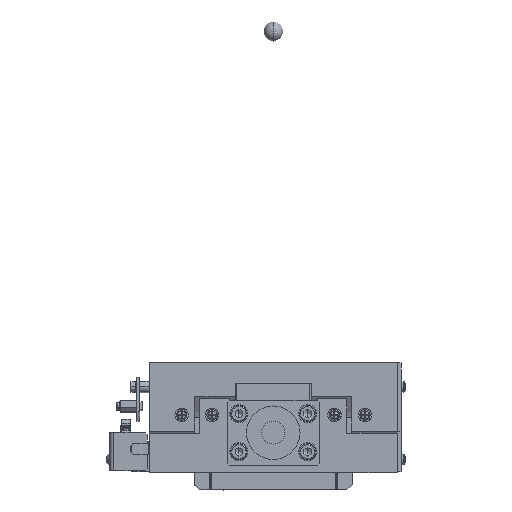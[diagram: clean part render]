
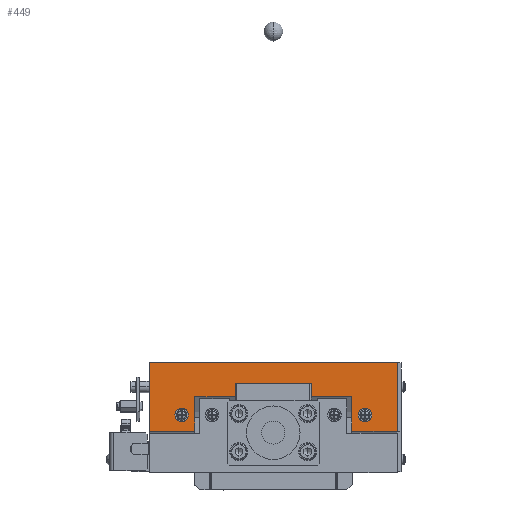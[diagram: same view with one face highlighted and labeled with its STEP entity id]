
A CAD part, left-side view. The second image highlights one B-rep face of the part: STEP entity #449.
In plain terms, the highlighted planar face has unit normal (-1, 0, 0).
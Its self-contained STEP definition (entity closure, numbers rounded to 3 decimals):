
#449=ADVANCED_FACE('',(#6894,#6895,#6896),#6893,.T.);
#6893=PLANE('',#42732);
#6894=FACE_OUTER_BOUND('',#42733,.T.);
#6895=FACE_BOUND('',#42734,.T.);
#6896=FACE_BOUND('',#42735,.T.);
#42729=CARTESIAN_POINT('',(-65.,-75.,18.255));
#42730=DIRECTION('',(-1.,0.,0.));
#42731=DIRECTION('',(0.,0.,1.));
#42732=AXIS2_PLACEMENT_3D('',#42729,#42730,#42731);
#42733=EDGE_LOOP('',(#67120,#67121,#67122,#67123,#67124,#67125,#67126,#67127,#67128,#67129,#67130,#67131));
#42734=EDGE_LOOP('',(#67132,#67133));
#42735=EDGE_LOOP('',(#67134,#67135));
#67120=ORIENTED_EDGE('',*,*,#83916,.F.);
#67121=ORIENTED_EDGE('',*,*,#84635,.F.);
#67122=ORIENTED_EDGE('',*,*,#84636,.T.);
#67123=ORIENTED_EDGE('',*,*,#83912,.F.);
#67124=ORIENTED_EDGE('',*,*,#83892,.T.);
#67125=ORIENTED_EDGE('',*,*,#83939,.F.);
#67126=ORIENTED_EDGE('',*,*,#83935,.F.);
#67127=ORIENTED_EDGE('',*,*,#84024,.T.);
#67128=ORIENTED_EDGE('',*,*,#84032,.F.);
#67129=ORIENTED_EDGE('',*,*,#83901,.F.);
#67130=ORIENTED_EDGE('',*,*,#84034,.T.);
#67131=ORIENTED_EDGE('',*,*,#83946,.T.);
#67132=ORIENTED_EDGE('',*,*,#84637,.T.);
#67133=ORIENTED_EDGE('',*,*,#84638,.T.);
#67134=ORIENTED_EDGE('',*,*,#84639,.T.);
#67135=ORIENTED_EDGE('',*,*,#84640,.T.);
#83892=EDGE_CURVE('',#94804,#94818,#94825,.T.);
#83901=EDGE_CURVE('',#94887,#94888,#94889,.T.);
#83912=EDGE_CURVE('',#94804,#94922,#94961,.T.);
#83916=EDGE_CURVE('',#94982,#94967,#94989,.T.);
#83935=EDGE_CURVE('',#95114,#95100,#95121,.T.);
#83939=EDGE_CURVE('',#95100,#94818,#95147,.T.);
#83946=EDGE_CURVE('',#95194,#94967,#95195,.T.);
#84024=EDGE_CURVE('',#95114,#95733,#95740,.T.);
#84032=EDGE_CURVE('',#94888,#95733,#95792,.T.);
#84034=EDGE_CURVE('',#94887,#95194,#95804,.T.);
#84635=EDGE_CURVE('',#99784,#94982,#99785,.T.);
#84636=EDGE_CURVE('',#99784,#94922,#99791,.T.);
#84637=EDGE_CURVE('',#99797,#99798,#99799,.T.);
#84638=EDGE_CURVE('',#99798,#99797,#99805,.T.);
#84639=EDGE_CURVE('',#99811,#99812,#99813,.T.);
#84640=EDGE_CURVE('',#99812,#99811,#99819,.T.);
#94804=VERTEX_POINT('',#155460);
#94818=VERTEX_POINT('',#155469);
#94825=LINE('',#155473,#155474);
#94887=VERTEX_POINT('',#155509);
#94888=VERTEX_POINT('',#155510);
#94889=LINE('',#155511,#155512);
#94922=VERTEX_POINT('',#155532);
#94961=LINE('',#155554,#155555);
#94967=VERTEX_POINT('',#155557);
#94982=VERTEX_POINT('',#155566);
#94989=LINE('',#155571,#155572);
#95100=VERTEX_POINT('',#155644);
#95114=VERTEX_POINT('',#155652);
#95121=LINE('',#155657,#155658);
#95147=LINE('',#155671,#155672);
#95194=VERTEX_POINT('',#155700);
#95195=LINE('',#155701,#155702);
#95733=VERTEX_POINT('',#156080);
#95740=LINE('',#156085,#156086);
#95792=LINE('',#156114,#156115);
#95804=LINE('',#156120,#156121);
#99784=VERTEX_POINT('',#158407);
#99785=LINE('',#158408,#158409);
#99791=LINE('',#158411,#158412);
#99797=VERTEX_POINT('',#158414);
#99798=VERTEX_POINT('',#158415);
#99799=CIRCLE('',#158419,3.5);
#99805=CIRCLE('',#158423,3.5);
#99811=VERTEX_POINT('',#158424);
#99812=VERTEX_POINT('',#158425);
#99813=CIRCLE('',#158429,3.5);
#99819=CIRCLE('',#158433,3.5);
#155460=CARTESIAN_POINT('',(-65.,20.,39.744));
#155469=CARTESIAN_POINT('',(-65.,20.,47.));
#155473=CARTESIAN_POINT('',(-65.,20.,39.744));
#155474=VECTOR('',#155475,7.256);
#155475=DIRECTION('',(0.,0.,1.));
#155509=CARTESIAN_POINT('',(-65.,-65.,21.868));
#155510=CARTESIAN_POINT('',(-65.,-41.,21.868));
#155511=CARTESIAN_POINT('',(-65.,-65.,21.868));
#155512=VECTOR('',#155513,24.);
#155513=DIRECTION('',(0.,1.,0.));
#155532=CARTESIAN_POINT('',(-65.,41.,39.744));
#155554=CARTESIAN_POINT('',(-65.,20.,39.744));
#155555=VECTOR('',#155556,21.);
#155556=DIRECTION('',(0.,1.,0.));
#155557=CARTESIAN_POINT('',(-65.,65.,58.));
#155566=CARTESIAN_POINT('',(-65.,65.,21.868));
#155571=CARTESIAN_POINT('',(-65.,65.,21.868));
#155572=VECTOR('',#155573,36.132);
#155573=DIRECTION('',(0.,0.,1.));
#155644=CARTESIAN_POINT('',(-65.,-20.,47.));
#155652=CARTESIAN_POINT('',(-65.,-20.,39.744));
#155657=CARTESIAN_POINT('',(-65.,-20.,39.744));
#155658=VECTOR('',#155659,7.256);
#155659=DIRECTION('',(0.,0.,1.));
#155671=CARTESIAN_POINT('',(-65.,-20.,47.));
#155672=VECTOR('',#155673,40.);
#155673=DIRECTION('',(0.,1.,0.));
#155700=CARTESIAN_POINT('',(-65.,-65.,58.));
#155701=CARTESIAN_POINT('',(-65.,-65.,58.));
#155702=VECTOR('',#155703,130.);
#155703=DIRECTION('',(0.,1.,0.));
#156080=CARTESIAN_POINT('',(-65.,-41.,39.744));
#156085=CARTESIAN_POINT('',(-65.,-20.,39.744));
#156086=VECTOR('',#156087,21.);
#156087=DIRECTION('',(0.,-1.,0.));
#156114=CARTESIAN_POINT('',(-65.,-41.,21.868));
#156115=VECTOR('',#156116,17.875);
#156116=DIRECTION('',(0.,0.,1.));
#156120=CARTESIAN_POINT('',(-65.,-65.,21.868));
#156121=VECTOR('',#156122,36.132);
#156122=DIRECTION('',(0.,0.,1.));
#158407=CARTESIAN_POINT('',(-65.,41.,21.868));
#158408=CARTESIAN_POINT('',(-65.,41.,21.868));
#158409=VECTOR('',#158410,24.);
#158410=DIRECTION('',(0.,1.,0.));
#158411=CARTESIAN_POINT('',(-65.,41.,21.868));
#158412=VECTOR('',#158413,17.875);
#158413=DIRECTION('',(0.,0.,1.));
#158414=CARTESIAN_POINT('',(-65.,48.,33.8));
#158415=CARTESIAN_POINT('',(-65.,48.,26.8));
#158416=CARTESIAN_POINT('',(-65.,48.,30.3));
#158417=DIRECTION('',(1.,0.,0.));
#158418=DIRECTION('',(0.,0.,1.));
#158419=AXIS2_PLACEMENT_3D('',#158416,#158417,#158418);
#158420=CARTESIAN_POINT('',(-65.,48.,30.3));
#158421=DIRECTION('',(1.,0.,0.));
#158422=DIRECTION('',(0.,0.,1.));
#158423=AXIS2_PLACEMENT_3D('',#158420,#158421,#158422);
#158424=CARTESIAN_POINT('',(-65.,-48.,33.8));
#158425=CARTESIAN_POINT('',(-65.,-48.,26.8));
#158426=CARTESIAN_POINT('',(-65.,-48.,30.3));
#158427=DIRECTION('',(1.,0.,0.));
#158428=DIRECTION('',(0.,0.,1.));
#158429=AXIS2_PLACEMENT_3D('',#158426,#158427,#158428);
#158430=CARTESIAN_POINT('',(-65.,-48.,30.3));
#158431=DIRECTION('',(1.,0.,0.));
#158432=DIRECTION('',(0.,0.,1.));
#158433=AXIS2_PLACEMENT_3D('',#158430,#158431,#158432);
